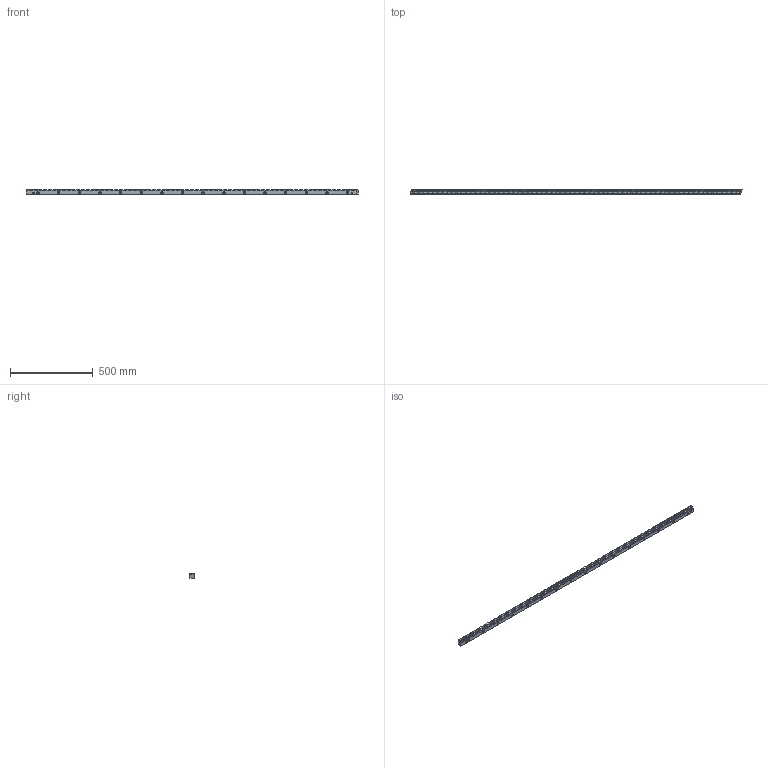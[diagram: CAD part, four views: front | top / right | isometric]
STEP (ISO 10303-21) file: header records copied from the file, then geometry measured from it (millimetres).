
FILE_DESCRIPTION (( 'STEP AP203' ), '1' );
FILE_NAME ('ZST M3-39x39x2000-S.STEP', '2018-04-02T08:55:04', ( '' ), ( '' ), 'SwSTEP 2.0', 'SolidWorks 2013', '' );
FILE_SCHEMA (( 'CONFIG_CONTROL_DESIGN' ));
Length unit declared in the file: millimetre
Products named in the file (1): ZST M3-39x39x2000-S
Bounding box: 2010.3 x 29 x 29 mm (x, y, z)
Volume: 1440315.5 mm3; surface area: 292019.9 mm2
Topology: 1 solids, 1 shells, 897 faces, 2637 edges, 1758 vertices
Faces by surface type: plane 829, cylinder 68
Entity records: 29476 total; most frequent: CARTESIAN_POINT 5293, ORIENTED_EDGE 5274, DIRECTION 4569, EDGE_CURVE 2637, LINE 2501, VECTOR 2501, VERTEX_POINT 1758, AXIS2_PLACEMENT_3D 1034
